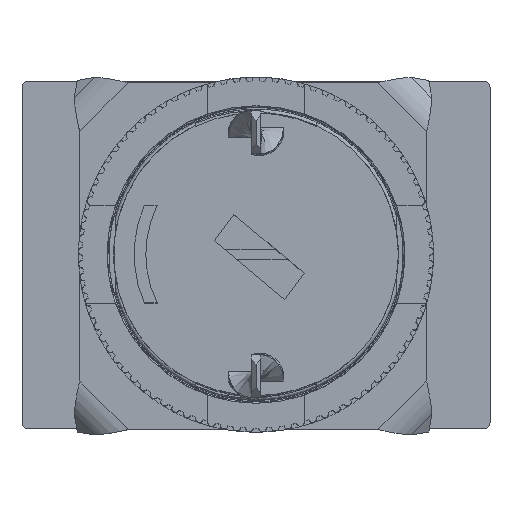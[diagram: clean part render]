
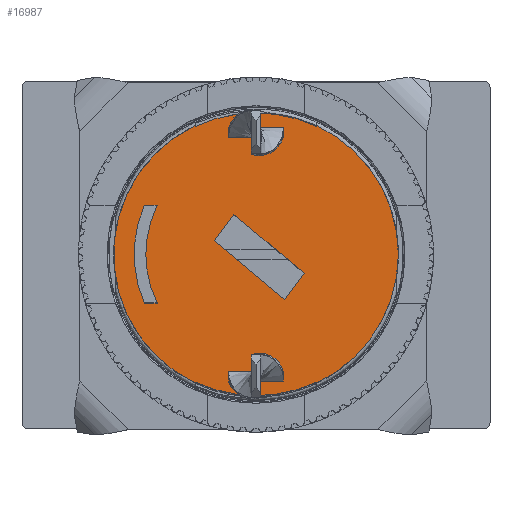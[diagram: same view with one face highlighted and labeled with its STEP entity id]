
A CAD part, top view. The second image highlights one B-rep face of the part: STEP entity #16987.
In plain terms, the highlighted planar face has unit normal (0, 0, 1).
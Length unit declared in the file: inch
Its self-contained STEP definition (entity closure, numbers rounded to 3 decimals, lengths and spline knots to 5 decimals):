
#1=CARTESIAN_POINT('',(12.,8.9,-8.5));
#2=DIRECTION('',(0.,0.,-1.));
#3=DIRECTION('',(0.428,-0.904,0.));
#4=AXIS2_PLACEMENT_3D('',#1,#2,#3);
#6=CARTESIAN_POINT('',(12.,8.9,-8.5));
#7=DIRECTION('',(0.,0.,-1.));
#8=DIRECTION('',(-0.425,-0.905,0.));
#9=AXIS2_PLACEMENT_3D('',#6,#7,#8);
#11=CARTESIAN_POINT('',(12.,8.9,-8.5));
#12=DIRECTION('',(0.,0.,-1.));
#13=DIRECTION('',(-0.428,0.904,0.));
#14=AXIS2_PLACEMENT_3D('',#11,#12,#13);
#16=CARTESIAN_POINT('',(12.,8.9,-8.5));
#17=DIRECTION('',(0.,0.,-1.));
#18=DIRECTION('',(0.425,0.905,0.));
#19=AXIS2_PLACEMENT_3D('',#16,#17,#18);
#21=CARTESIAN_POINT('',(12.,8.9,-8.5));
#22=DIRECTION('',(0.,0.,-1.));
#23=DIRECTION('',(1.,0.,0.));
#24=AXIS2_PLACEMENT_3D('',#21,#22,#23);
#26=CARTESIAN_POINT('',(12.,8.9,-8.5));
#27=DIRECTION('',(0.,0.,1.));
#28=DIRECTION('',(-0.917,0.4,0.));
#29=AXIS2_PLACEMENT_3D('',#26,#27,#28);
#31=CARTESIAN_POINT('',(12.,8.9,-8.5));
#32=DIRECTION('',(0.,0.,-1.));
#33=DIRECTION('',(-0.897,-0.442,0.));
#34=AXIS2_PLACEMENT_3D('',#31,#32,#33);
#36=DIRECTION('',(0.766,-0.643,0.));
#37=VECTOR('',#36,4.70844);
#38=CARTESIAN_POINT('',(9.86139,9.59797,-8.5));
#39=LINE('',#38,#37);
#40=DIRECTION('',(0.596,0.803,0.));
#41=VECTOR('',#40,1.68302);
#42=CARTESIAN_POINT('',(13.46826,6.57144,-8.5));
#43=LINE('',#42,#41);
#44=DIRECTION('',(-0.766,0.643,0.));
#45=VECTOR('',#44,4.70844);
#46=CARTESIAN_POINT('',(14.471,7.92313,-8.5));
#47=LINE('',#46,#45);
#48=DIRECTION('',(-0.596,-0.803,0.));
#49=VECTOR('',#48,1.68302);
#50=CARTESIAN_POINT('',(10.86413,10.94965,-8.5));
#51=LINE('',#50,#49);
#52=DIRECTION('',(0.,-1.,0.));
#53=VECTOR('',#52,0.05527);
#54=CARTESIAN_POINT('',(15.1,2.34618,-8.5));
#55=LINE('',#54,#53);
#3587=DIRECTION('',(0.,-1.,0.));
#3588=VECTOR('',#3587,0.05527);
#3589=CARTESIAN_POINT('',(15.1,15.50908,-8.5));
#3590=LINE('',#3589,#3588);
#3643=DIRECTION('',(0.,1.,0.));
#3644=VECTOR('',#3643,0.05527);
#3645=CARTESIAN_POINT('',(8.9,15.45382,-8.5));
#3646=LINE('',#3645,#3644);
#4153=DIRECTION('',(0.,1.,0.));
#4154=VECTOR('',#4153,0.05527);
#4155=CARTESIAN_POINT('',(8.9,2.29092,-8.5));
#4156=LINE('',#4155,#4154);
#14228=DIRECTION('',(1.,0.,0.));
#14229=VECTOR('',#14228,0.66142);
#14230=CARTESIAN_POINT('',(6.27178,11.4,-8.5));
#14231=LINE('',#14230,#14229);
#14240=DIRECTION('',(-1.,0.,0.));
#14241=VECTOR('',#14240,0.66142);
#14242=CARTESIAN_POINT('',(6.9332,6.4,-8.5));
#14243=LINE('',#14242,#14241);
#14350=DIRECTION('',(1.,0.,0.));
#14351=VECTOR('',#14350,2.82);
#14352=CARTESIAN_POINT('',(10.59,2.9,-8.5));
#14353=LINE('',#14352,#14351);
#14438=DIRECTION('',(0.,-1.,0.));
#14439=VECTOR('',#14438,0.5);
#14440=CARTESIAN_POINT('',(13.41,2.9,-8.5));
#14441=LINE('',#14440,#14439);
#14459=DIRECTION('',(-1.,0.,0.));
#14460=VECTOR('',#14459,2.82);
#14461=CARTESIAN_POINT('',(13.41,2.4,-8.5));
#14462=LINE('',#14461,#14460);
#14519=DIRECTION('',(0.,1.,0.));
#14520=VECTOR('',#14519,0.5);
#14521=CARTESIAN_POINT('',(10.59,2.4,-8.5));
#14522=LINE('',#14521,#14520);
#14556=DIRECTION('',(-1.,0.,0.));
#14557=VECTOR('',#14556,2.82);
#14558=CARTESIAN_POINT('',(13.41,14.9,-8.5));
#14559=LINE('',#14558,#14557);
#14638=DIRECTION('',(0.,1.,0.));
#14639=VECTOR('',#14638,0.5);
#14640=CARTESIAN_POINT('',(10.59,14.9,-8.5));
#14641=LINE('',#14640,#14639);
#14658=DIRECTION('',(1.,0.,0.));
#14659=VECTOR('',#14658,2.82);
#14660=CARTESIAN_POINT('',(10.59,15.4,-8.5));
#14661=LINE('',#14660,#14659);
#14716=DIRECTION('',(0.,-1.,0.));
#14717=VECTOR('',#14716,0.5);
#14718=CARTESIAN_POINT('',(13.41,15.4,-8.5));
#14719=LINE('',#14718,#14717);
#14756=CARTESIAN_POINT('',(15.1,2.34618,-8.5));
#14757=CARTESIAN_POINT('',(15.1,2.29092,-8.5));
#14758=VERTEX_POINT('',#14756);
#14759=VERTEX_POINT('',#14757);
#14760=CARTESIAN_POINT('',(8.9,2.34618,-8.5));
#14761=VERTEX_POINT('',#14760);
#14762=CARTESIAN_POINT('',(8.9,2.29092,-8.5));
#14763=VERTEX_POINT('',#14762);
#14764=CARTESIAN_POINT('',(8.9,15.45382,-8.5));
#14765=CARTESIAN_POINT('',(8.9,15.50908,-8.5));
#14766=VERTEX_POINT('',#14764);
#14767=VERTEX_POINT('',#14765);
#14768=CARTESIAN_POINT('',(15.1,15.45382,-8.5));
#14769=VERTEX_POINT('',#14768);
#14770=CARTESIAN_POINT('',(15.1,15.50908,-8.5));
#14771=VERTEX_POINT('',#14770);
#14772=CARTESIAN_POINT('',(6.27178,11.4,-8.5));
#14773=CARTESIAN_POINT('',(6.27178,6.4,-8.5));
#14774=VERTEX_POINT('',#14772);
#14775=VERTEX_POINT('',#14773);
#14776=CARTESIAN_POINT('',(6.9332,6.4,-8.5));
#14777=VERTEX_POINT('',#14776);
#14778=CARTESIAN_POINT('',(6.9332,11.4,-8.5));
#14779=VERTEX_POINT('',#14778);
#14780=CARTESIAN_POINT('',(9.86139,9.59797,-8.5));
#14781=CARTESIAN_POINT('',(13.46826,6.57144,-8.5));
#14782=VERTEX_POINT('',#14780);
#14783=VERTEX_POINT('',#14781);
#14784=CARTESIAN_POINT('',(14.471,7.92313,-8.5));
#14785=VERTEX_POINT('',#14784);
#14786=CARTESIAN_POINT('',(10.86413,10.94965,-8.5));
#14787=VERTEX_POINT('',#14786);
#14788=CARTESIAN_POINT('',(10.59,2.9,-8.5));
#14789=CARTESIAN_POINT('',(13.41,2.9,-8.5));
#14790=VERTEX_POINT('',#14788);
#14791=VERTEX_POINT('',#14789);
#14792=CARTESIAN_POINT('',(10.59,2.4,-8.5));
#14793=VERTEX_POINT('',#14792);
#14794=CARTESIAN_POINT('',(13.41,2.4,-8.5));
#14795=VERTEX_POINT('',#14794);
#14796=CARTESIAN_POINT('',(13.41,14.9,-8.5));
#14797=CARTESIAN_POINT('',(10.59,14.9,-8.5));
#14798=VERTEX_POINT('',#14796);
#14799=VERTEX_POINT('',#14797);
#14800=CARTESIAN_POINT('',(13.41,15.4,-8.5));
#14801=VERTEX_POINT('',#14800);
#14802=CARTESIAN_POINT('',(10.59,15.4,-8.5));
#14803=VERTEX_POINT('',#14802);
#14813=CARTESIAN_POINT('',(19.3,8.9,-8.5));
#14814=VERTEX_POINT('',#14813);
#16922=CARTESIAN_POINT('',(12.,8.9,-8.5));
#16923=DIRECTION('',(0.,0.,1.));
#16924=DIRECTION('',(1.,0.,0.));
#16925=AXIS2_PLACEMENT_3D('',#16922,#16923,#16924);
#16926=PLANE('',#16925);
#16928=ORIENTED_EDGE('',*,*,#16927,.F.);
#16930=ORIENTED_EDGE('',*,*,#16929,.T.);
#16932=ORIENTED_EDGE('',*,*,#16931,.F.);
#16934=ORIENTED_EDGE('',*,*,#16933,.T.);
#16936=ORIENTED_EDGE('',*,*,#16935,.F.);
#16938=ORIENTED_EDGE('',*,*,#16937,.T.);
#16940=ORIENTED_EDGE('',*,*,#16939,.F.);
#16942=ORIENTED_EDGE('',*,*,#16941,.T.);
#16944=ORIENTED_EDGE('',*,*,#16943,.T.);
#16945=EDGE_LOOP('',(#16928,#16930,#16932,#16934,#16936,#16938,#16940,#16942,
#16944));
#16946=FACE_OUTER_BOUND('',#16945,.F.);
#16948=ORIENTED_EDGE('',*,*,#16947,.T.);
#16950=ORIENTED_EDGE('',*,*,#16949,.F.);
#16952=ORIENTED_EDGE('',*,*,#16951,.T.);
#16954=ORIENTED_EDGE('',*,*,#16953,.F.);
#16955=EDGE_LOOP('',(#16948,#16950,#16952,#16954));
#16956=FACE_BOUND('',#16955,.F.);
#16958=ORIENTED_EDGE('',*,*,#16957,.T.);
#16960=ORIENTED_EDGE('',*,*,#16959,.T.);
#16962=ORIENTED_EDGE('',*,*,#16961,.T.);
#16964=ORIENTED_EDGE('',*,*,#16963,.T.);
#16965=EDGE_LOOP('',(#16958,#16960,#16962,#16964));
#16966=FACE_BOUND('',#16965,.F.);
#16968=ORIENTED_EDGE('',*,*,#16967,.F.);
#16970=ORIENTED_EDGE('',*,*,#16969,.F.);
#16972=ORIENTED_EDGE('',*,*,#16971,.F.);
#16974=ORIENTED_EDGE('',*,*,#16973,.F.);
#16975=EDGE_LOOP('',(#16968,#16970,#16972,#16974));
#16976=FACE_BOUND('',#16975,.F.);
#16978=ORIENTED_EDGE('',*,*,#16977,.F.);
#16980=ORIENTED_EDGE('',*,*,#16979,.F.);
#16982=ORIENTED_EDGE('',*,*,#16981,.F.);
#16984=ORIENTED_EDGE('',*,*,#16983,.F.);
#16985=EDGE_LOOP('',(#16978,#16980,#16982,#16984));
#16986=FACE_BOUND('',#16985,.F.);
#16987=ADVANCED_FACE('',(#16946,#16956,#16966,#16976,#16986),#16926,.T.);
#5=CIRCLE('',#4,7.25);
#10=CIRCLE('',#9,7.3);
#15=CIRCLE('',#14,7.25);
#20=CIRCLE('',#19,7.3);
#25=CIRCLE('',#24,7.3);
#30=CIRCLE('',#29,6.25);
#35=CIRCLE('',#34,5.65);
#16927=EDGE_CURVE('',#14758,#14759,#55,.T.);
#16929=EDGE_CURVE('',#14758,#14761,#5,.T.);
#16931=EDGE_CURVE('',#14763,#14761,#4156,.T.);
#16933=EDGE_CURVE('',#14763,#14767,#10,.T.);
#16935=EDGE_CURVE('',#14766,#14767,#3646,.T.);
#16937=EDGE_CURVE('',#14766,#14769,#15,.T.);
#16939=EDGE_CURVE('',#14771,#14769,#3590,.T.);
#16941=EDGE_CURVE('',#14771,#14814,#20,.T.);
#16943=EDGE_CURVE('',#14814,#14759,#25,.T.);
#16947=EDGE_CURVE('',#14774,#14775,#30,.T.);
#16949=EDGE_CURVE('',#14777,#14775,#14243,.T.);
#16951=EDGE_CURVE('',#14777,#14779,#35,.T.);
#16953=EDGE_CURVE('',#14774,#14779,#14231,.T.);
#16957=EDGE_CURVE('',#14782,#14783,#39,.T.);
#16959=EDGE_CURVE('',#14783,#14785,#43,.T.);
#16961=EDGE_CURVE('',#14785,#14787,#47,.T.);
#16963=EDGE_CURVE('',#14787,#14782,#51,.T.);
#16967=EDGE_CURVE('',#14790,#14791,#14353,.T.);
#16969=EDGE_CURVE('',#14793,#14790,#14522,.T.);
#16971=EDGE_CURVE('',#14795,#14793,#14462,.T.);
#16973=EDGE_CURVE('',#14791,#14795,#14441,.T.);
#16977=EDGE_CURVE('',#14798,#14799,#14559,.T.);
#16979=EDGE_CURVE('',#14801,#14798,#14719,.T.);
#16981=EDGE_CURVE('',#14803,#14801,#14661,.T.);
#16983=EDGE_CURVE('',#14799,#14803,#14641,.T.);
